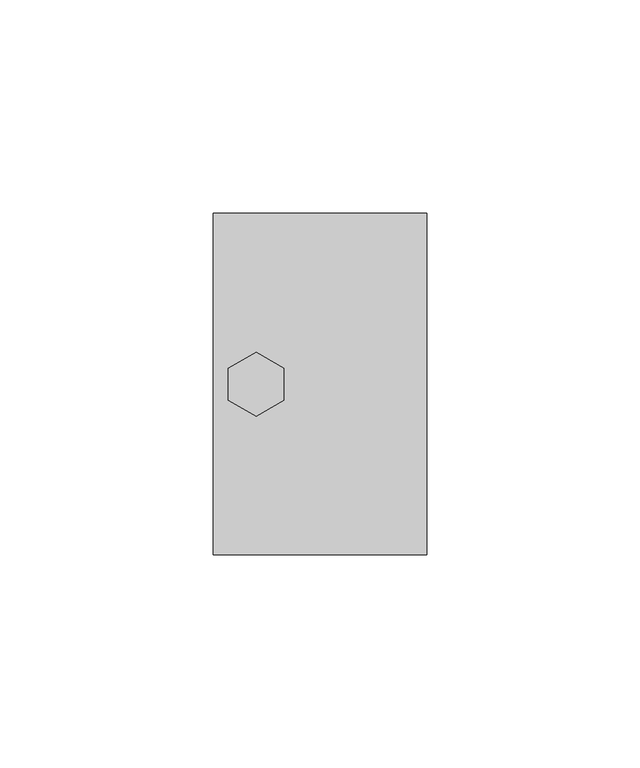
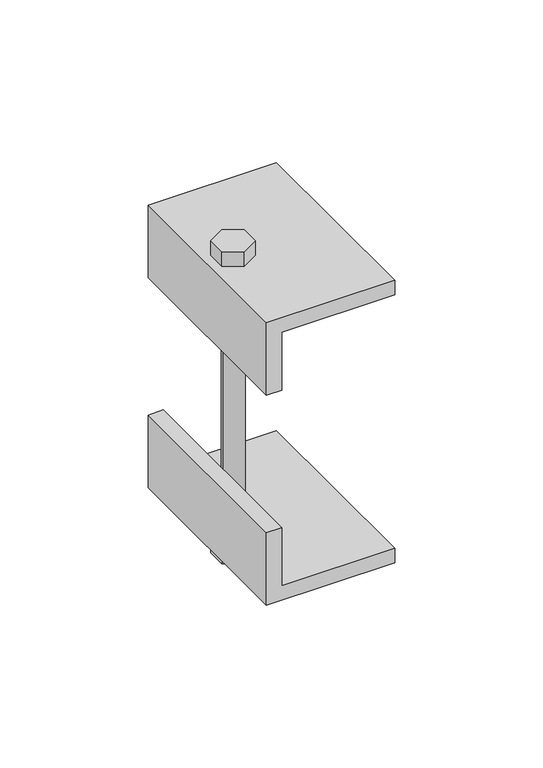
"""IFC4 building model written with IfcOpenShell, lengths in millimetres: proxy geometry, Cable_Ladder_CoverRetainer_PTEFV_Fibertrav : Fibertrav PTEFV 4."""

from ifc_helpers import new_model, si_unit, point, frame, frame_2d, origin, place, context, project, spatial, polyline, circle_curve, trimmed, segment, composite_curve, outline, extrude, source, transform, mapped, element, save


def generic_models_9493494c(model_context):
    return source(origin(), model_context, "Body", "SweptSolid", [
        extrude(outline(polyline([(16.5436011, -16.281456), (10.0396519, -20.0365128), (3.5357028, -16.281456), (3.5357028, -8.7713424), (10.0396519, -5.0162857), (16.5436011, -8.7713424), (16.5436011, -16.281456)])), frame((0.0, 0.0, 6.0), z_axis=(0.0, 0.0, 1.0), x_axis=(1.0, 0.0, 0.0)), (0.0, 0.0, 1.0), 6.0),
        extrude(outline(polyline([(10.0396519, -5.0162857), (16.5436011, -8.7713424), (16.5436011, -16.281456), (10.0396519, -20.0365128), (3.5357028, -16.281456), (3.5357028, -8.7713424), (10.0396519, -5.0162857)])), frame((0.0, 0.0, -116.6), z_axis=(0.0, 0.0, 1.0), x_axis=(1.0, 0.0, 0.0)), (0.0, 0.0, 1.0), 6.0),
        extrude(outline(composite_curve([segment(trimmed(circle_curve(frame_2d((10.1241134, -12.5)), 4.0), [point((14.1241134, -12.5))], [point((6.1241134, -12.5))], False, "CARTESIAN"), True, "CONTINUOUS"), segment(trimmed(circle_curve(frame_2d((10.1241134, -12.5)), 4.0), [point((6.1241134, -12.5))], [point((14.1241134, -12.5))], False, "CARTESIAN"), True, "CONTINUOUS")], self_intersect=False)), frame((0.0, 0.0, -104.6), z_axis=(0.0, 0.0, 1.0), x_axis=(1.0, 0.0, 0.0)), (0.0, 0.0, 1.0), 101.6),
        extrude(outline(polyline([(-110.6, 50.0), (-104.6, 50.0), (-104.6, 6.0), (-80.6, 6.0), (-80.6, 0.0), (-110.6, 0.0), (-110.6, 50.0)])), frame((0.0, -52.5, 0.0), z_axis=(0.0, 1.0, 0.0), x_axis=(0.0, 0.0, 1.0)), (0.0, 0.0, 1.0), 80.0),
        extrude(outline(polyline([(-24.0, 0.0), (-24.0, 6.0), (0.0, 6.0), (0.0, 50.0), (6.0, 50.0), (6.0, 0.0), (-24.0, 0.0)])), frame((0.0, -52.5, 0.0), z_axis=(0.0, 1.0, 0.0), x_axis=(0.0, 0.0, 1.0)), (0.0, 0.0, 1.0), 80.0),
    ])


if __name__ == "__main__":
    model = new_model("IFC4")
    model_context = context("Model", 3, world=origin())
    ifc_project = project(units=[si_unit("LENGTHUNIT", "METRE", prefix="MILLI")], contexts=[model_context])
    site = spatial("IfcSite", under=ifc_project)
    building = spatial("IfcBuilding", under=site)
    placement = place(None, origin())
    generic_models_shape = generic_models_9493494c(model_context)
    element("IfcBuildingElementProxy", 1, Name="Cable_Ladder_CoverRetainer_PTEFV_Fibertrav : Fibertrav PTEFV 4", ObjectType="Cable_Ladder_CoverRetainer_PTEFV_Fibertrav : Fibertrav PTEFV 4", at=placement, inside=building, context=model_context, shape_type="MappedRepresentation", body=[
        mapped(generic_models_shape, transform((0.0, 0.0, 0.0), x_axis=(1.0, 0.0, 0.0), y_axis=(0.0, 1.0, 0.0), z_axis=(0.0, 0.0, 1.0))),
    ])
    save(model, "model.ifc")
